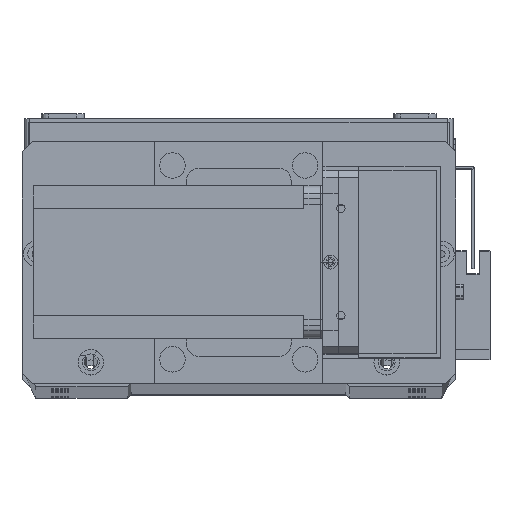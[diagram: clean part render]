
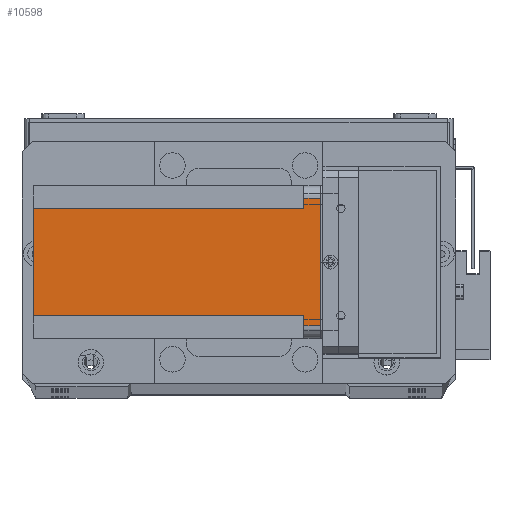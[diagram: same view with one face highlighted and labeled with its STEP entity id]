
A CAD part, top view. The second image highlights one B-rep face of the part: STEP entity #10598.
In plain terms, the highlighted planar face has unit normal (0, 0, 1) as drawn and (-1, 0, 0) by its records, which use the part's own axes.
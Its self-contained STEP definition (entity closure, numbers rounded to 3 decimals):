
#640 = ORIENTED_EDGE ( 'NONE', *, *, #19351, .F. ) ;
#1182 = DIRECTION ( 'NONE',  ( 0., 0., 1. ) ) ;
#1547 = LINE ( 'NONE', #11715, #15475 ) ;
#1909 = VERTEX_POINT ( 'NONE', #16816 ) ;
#2623 = VECTOR ( 'NONE', #1182, 1000. ) ;
#3575 = VECTOR ( 'NONE', #5971, 1000. ) ;
#3976 = LINE ( 'NONE', #5795, #30530 ) ;
#4680 = LINE ( 'NONE', #5078, #32010 ) ;
#5078 = CARTESIAN_POINT ( 'NONE',  ( 0., 5., -112.5 ) ) ;
#5198 = LINE ( 'NONE', #22126, #17252 ) ;
#5692 = DIRECTION ( 'NONE',  ( 0., 1., 0. ) ) ;
#5748 = DIRECTION ( 'NONE',  ( 0., -1., 0. ) ) ;
#5787 = DIRECTION ( 'NONE',  ( -1., 0., 0. ) ) ;
#5792 = CARTESIAN_POINT ( 'NONE',  ( 0., 0., -112.5 ) ) ;
#5795 = CARTESIAN_POINT ( 'NONE',  ( 0., 60., -6.5 ) ) ;
#5827 = PLANE ( 'NONE',  #16218 ) ;
#5971 = DIRECTION ( 'NONE',  ( 0., -1., 0. ) ) ;
#6177 = ORIENTED_EDGE ( 'NONE', *, *, #18209, .F. ) ;
#6467 = EDGE_LOOP ( 'NONE', ( #12273, #20250, #32330, #22171, #6177, #640, #12836, #11791 ) ) ;
#6626 = CARTESIAN_POINT ( 'NONE',  ( 0., 0., 0. ) ) ;
#7181 = DIRECTION ( 'NONE',  ( 0., 0., 1. ) ) ;
#8659 = VERTEX_POINT ( 'NONE', #30330 ) ;
#9636 = DIRECTION ( 'NONE',  ( 0., 0., -1. ) ) ;
#9783 = VERTEX_POINT ( 'NONE', #28421 ) ;
#9950 = CARTESIAN_POINT ( 'NONE',  ( 0., 0., -112.5 ) ) ;
#10598 = ADVANCED_FACE ( 'NONE', ( #10675 ), #5827, .T. ) ;
#10618 = LINE ( 'NONE', #6626, #3575 ) ;
#10675 = FACE_OUTER_BOUND ( 'NONE', #6467, .T. ) ;
#11406 = EDGE_CURVE ( 'NONE', #8659, #17251, #10618, .T. ) ;
#11715 = CARTESIAN_POINT ( 'NONE',  ( 0., 55., -112.5 ) ) ;
#11754 = DIRECTION ( 'NONE',  ( 0., 0., -1. ) ) ;
#11791 = ORIENTED_EDGE ( 'NONE', *, *, #20986, .F. ) ;
#12060 = VECTOR ( 'NONE', #19452, 1000. ) ;
#12270 = CARTESIAN_POINT ( 'NONE',  ( 0., 51., -6.5 ) ) ;
#12273 = ORIENTED_EDGE ( 'NONE', *, *, #13187, .F. ) ;
#12330 = VERTEX_POINT ( 'NONE', #12675 ) ;
#12675 = CARTESIAN_POINT ( 'NONE',  ( 0., 9., -112.5 ) ) ;
#12836 = ORIENTED_EDGE ( 'NONE', *, *, #19506, .T. ) ;
#13187 = EDGE_CURVE ( 'NONE', #9783, #1909, #26303, .T. ) ;
#13667 = EDGE_CURVE ( 'NONE', #9783, #17251, #4680, .T. ) ;
#14094 = VERTEX_POINT ( 'NONE', #20263 ) ;
#15475 = VECTOR ( 'NONE', #11754, 1000. ) ;
#16143 = EDGE_CURVE ( 'NONE', #8659, #19102, #1547, .T. ) ;
#16218 = AXIS2_PLACEMENT_3D ( 'NONE', #5792, #5787, #5748 ) ;
#16536 = VECTOR ( 'NONE', #17415, 1000. ) ;
#16816 = CARTESIAN_POINT ( 'NONE',  ( 0., 9., -6.5 ) ) ;
#17251 = VERTEX_POINT ( 'NONE', #31402 ) ;
#17252 = VECTOR ( 'NONE', #9636, 1000. ) ;
#17415 = DIRECTION ( 'NONE',  ( 0., -1., 0. ) ) ;
#18209 = EDGE_CURVE ( 'NONE', #23148, #19102, #3976, .T. ) ;
#19102 = VERTEX_POINT ( 'NONE', #33311 ) ;
#19234 = CARTESIAN_POINT ( 'NONE',  ( 0., 51., -112.5 ) ) ;
#19351 = EDGE_CURVE ( 'NONE', #14094, #23148, #22295, .T. ) ;
#19452 = DIRECTION ( 'NONE',  ( 0., 1., 0. ) ) ;
#19488 = CARTESIAN_POINT ( 'NONE',  ( 0., 0., -6.5 ) ) ;
#19506 = EDGE_CURVE ( 'NONE', #14094, #12330, #30141, .T. ) ;
#20250 = ORIENTED_EDGE ( 'NONE', *, *, #13667, .T. ) ;
#20263 = CARTESIAN_POINT ( 'NONE',  ( 0., 51., -112.5 ) ) ;
#20986 = EDGE_CURVE ( 'NONE', #1909, #12330, #5198, .T. ) ;
#22126 = CARTESIAN_POINT ( 'NONE',  ( 0., 9., -112.5 ) ) ;
#22171 = ORIENTED_EDGE ( 'NONE', *, *, #16143, .T. ) ;
#22295 = LINE ( 'NONE', #19234, #2623 ) ;
#23148 = VERTEX_POINT ( 'NONE', #12270 ) ;
#26303 = LINE ( 'NONE', #19488, #12060 ) ;
#28421 = CARTESIAN_POINT ( 'NONE',  ( 0., 5., -6.5 ) ) ;
#30141 = LINE ( 'NONE', #9950, #16536 ) ;
#30330 = CARTESIAN_POINT ( 'NONE',  ( 0., 55., 0. ) ) ;
#30530 = VECTOR ( 'NONE', #5692, 1000. ) ;
#31402 = CARTESIAN_POINT ( 'NONE',  ( 0., 5., 0. ) ) ;
#32010 = VECTOR ( 'NONE', #7181, 1000. ) ;
#32330 = ORIENTED_EDGE ( 'NONE', *, *, #11406, .F. ) ;
#33311 = CARTESIAN_POINT ( 'NONE',  ( 0., 55., -6.5 ) ) ;
